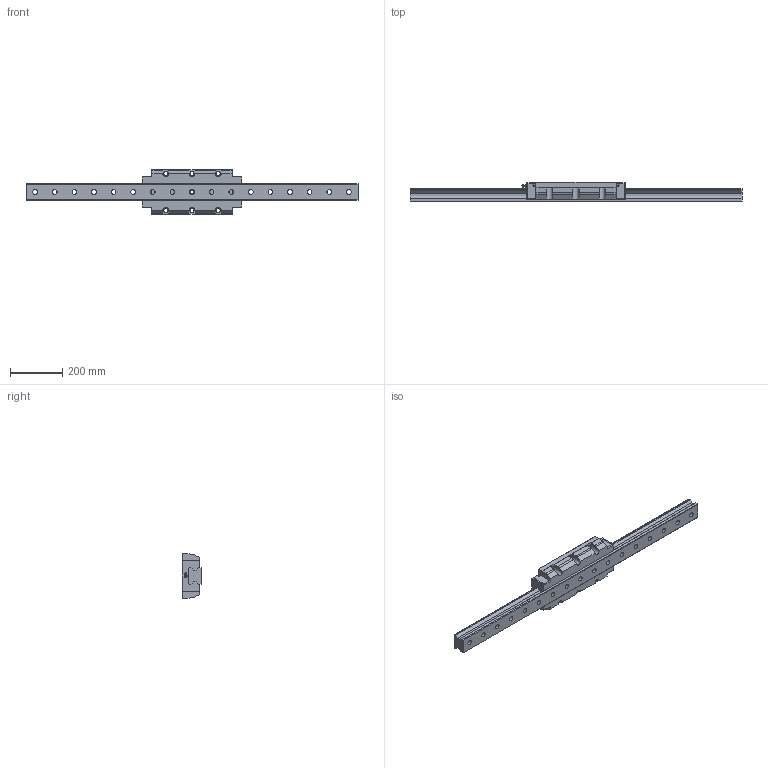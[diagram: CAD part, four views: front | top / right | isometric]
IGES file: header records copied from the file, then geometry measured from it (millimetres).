
Start section: Data from Parasolid IGES Translator 26.0.171, Copyright(c) 2006 Siemens PLM Software. All Rights Reserved.
Global section: file name: SRN65SLC1SS-1270L_G35_0_B-PT18_445_0_0_0.igs; native system: By Siemens PLM Incorporated; preprocessor: XPlus GENERIC/IGES 26.0.171; author: Noname; organization: Noname; date: 20240523.104552; units: millimetre
Bounding box: 1270 x 75 x 170 mm (x, y, z)
Surface area: 590925.8 mm2 (no closed solid volume)
Topology: 0 solids, 0 shells, 282 faces, 1509 edges, 1405 vertices
Faces by surface type: extrusion 174, revolution 108
